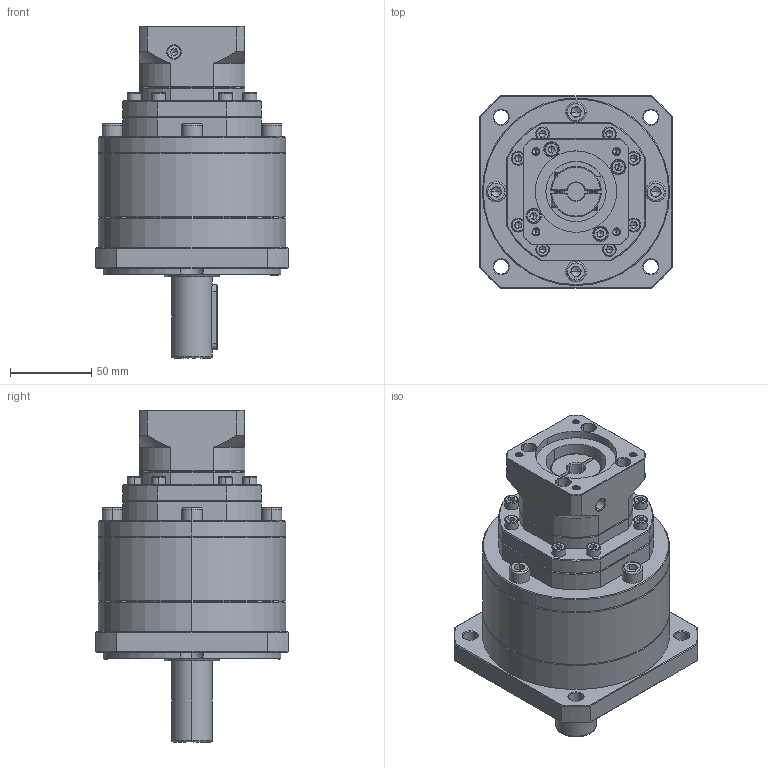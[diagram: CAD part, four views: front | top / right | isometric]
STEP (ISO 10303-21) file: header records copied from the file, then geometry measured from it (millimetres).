
FILE_DESCRIPTION (( 'STEP AP214' ), '1' );
FILE_NAME ('ZF120A-D25-L3-P2-11-50-70-M5.step', '2023-08-27T06:28:47', ( '' ), ( '' ), 'SwSTEP 2.0', 'SolidWorks 2016', '' );
FILE_SCHEMA (( 'AUTOMOTIVE_DESIGN' ));
Length unit declared in the file: millimetre
Products named in the file (1): ZF120A-D25-L3-P2-11-50-70-M5
Bounding box: 118 x 118 x 204 mm (x, y, z)
Volume: 1209987.9 mm3; surface area: 116852.6 mm2
Topology: 7 solids, 7 shells, 2358 faces, 6279 edges, 4031 vertices
Faces by surface type: plane 1179, bspline 435, cylinder 423, cone 299, torus 22
Entity records: 125590 total; most frequent: CARTESIAN_POINT 46362, ORIENTED_EDGE 12450, DIRECTION 9232, EDGE_CURVE 6225, VERTEX_POINT 4031, VECTOR 3334, LINE 3334, AXIS2_PLACEMENT_3D 2949
